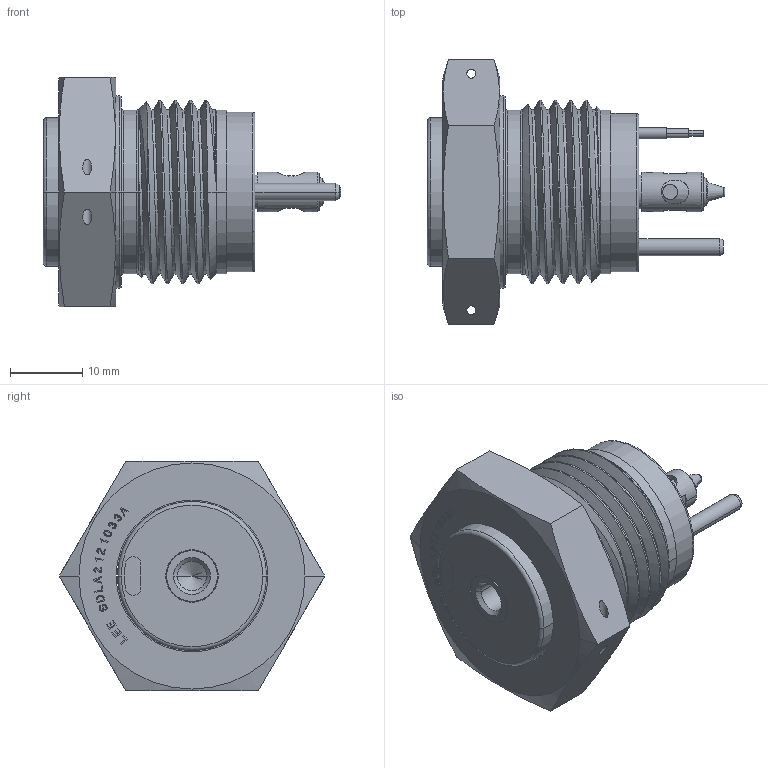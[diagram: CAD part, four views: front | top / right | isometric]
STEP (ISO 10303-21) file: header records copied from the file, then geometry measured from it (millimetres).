
FILE_DESCRIPTION(('Creo Elements/Direct Modeling STEP Export'),'2;1');
FILE_NAME('SDLA2121033A.stp','2021-04-08T15:30:07',(''),(''),'Creo Elements/Direct Modeling STEP processor for AP214 (Solid Model)','Creo Elements/Direct Modeling 18.1 03-Mar-2012 (C) Parametric Technology GmbH','');
FILE_SCHEMA(('AUTOMOTIVE_DESIGN { 1 0 10303 214 1 1 1 1 }'));
Length unit declared in the file: millimetre
Products named in the file (3): SDLA2121023A; SDBB2130009A; SDLA2121033A
Assembly tree (2 placements, depth 2):
  SDLA2121033A
    SDBB2130009A
    SDLA2121023A
Bounding box: 41.14 x 36.66 x 31.75 mm (x, y, z)
Volume: 15625.4 mm3; surface area: 8313.5 mm2
Topology: 2 solids, 2 shells, 684 faces, 1884 edges, 1242 vertices
Faces by surface type: plane 553, cylinder 79, cone 31, torus 15, bspline 6
Entity records: 26525 total; most frequent: CARTESIAN_POINT 9104, ORIENTED_EDGE 3764, DIRECTION 3149, EDGE_CURVE 1882, VECTOR 1581, LINE 1581, VERTEX_POINT 1242, AXIS2_PLACEMENT_3D 784
